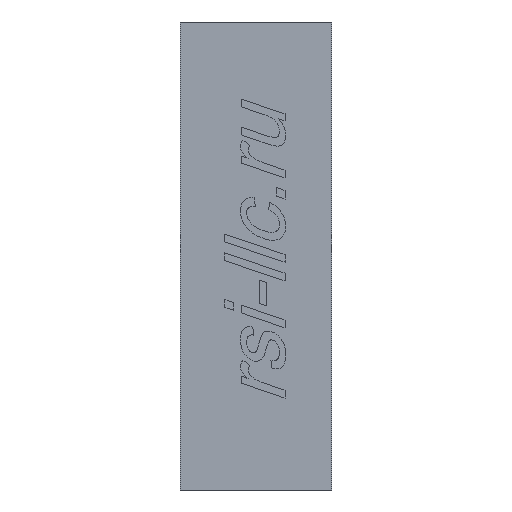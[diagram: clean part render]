
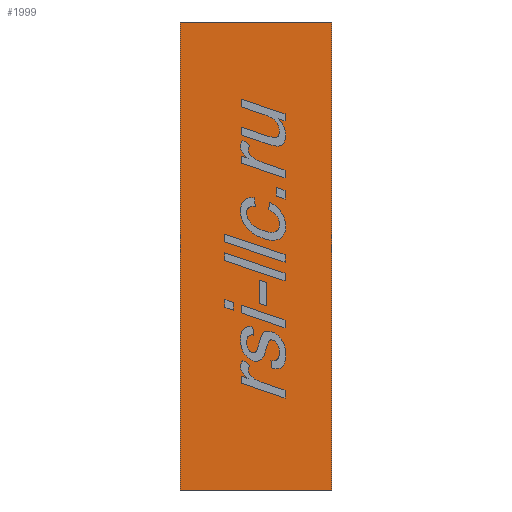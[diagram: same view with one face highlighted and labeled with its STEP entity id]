
A CAD part, front view. The second image highlights one B-rep face of the part: STEP entity #1999.
In plain terms, the highlighted planar face has unit normal (0, -1, 0).
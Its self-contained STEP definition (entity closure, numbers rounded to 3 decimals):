
#139 = VERTEX_POINT ( 'NONE', #193 ) ;
#193 = CARTESIAN_POINT ( 'NONE',  ( -15.5, 0., -48. ) ) ;
#201 = DIRECTION ( 'NONE',  ( 0., 0., -1. ) ) ;
#250 = CARTESIAN_POINT ( 'NONE',  ( 15.5, 0., 48. ) ) ;
#373 = DIRECTION ( 'NONE',  ( 0., 1., 0. ) ) ;
#450 = CARTESIAN_POINT ( 'NONE',  ( -15.5, 0., 48. ) ) ;
#726 = DIRECTION ( 'NONE',  ( -1., 0., 0. ) ) ;
#776 = VECTOR ( 'NONE', #726, 1000. ) ;
#923 = CARTESIAN_POINT ( 'NONE',  ( 15.5, 0., 48. ) ) ;
#1353 = VECTOR ( 'NONE', #4973, 1000. ) ;
#1557 = FACE_OUTER_BOUND ( 'NONE', #6687, .T. ) ;
#1793 = CARTESIAN_POINT ( 'NONE',  ( 15.5, 0., 48. ) ) ;
#1840 = EDGE_CURVE ( 'NONE', #3600, #5277, #3398, .T. ) ;
#1999 = ADVANCED_FACE ( 'NONE', ( #1557 ), #2486, .F. ) ;
#2357 = LINE ( 'NONE', #250, #1353 ) ;
#2486 = PLANE ( 'NONE',  #6644 ) ;
#2714 = EDGE_CURVE ( 'NONE', #3600, #6659, #2357, .T. ) ;
#2829 = LINE ( 'NONE', #4929, #5772 ) ;
#2884 = ORIENTED_EDGE ( 'NONE', *, *, #5405, .T. ) ;
#3352 = LINE ( 'NONE', #5449, #776 ) ;
#3398 = LINE ( 'NONE', #3615, #3936 ) ;
#3600 = VERTEX_POINT ( 'NONE', #1793 ) ;
#3615 = CARTESIAN_POINT ( 'NONE',  ( 15.5, 0., 48. ) ) ;
#3623 = ORIENTED_EDGE ( 'NONE', *, *, #2714, .F. ) ;
#3936 = VECTOR ( 'NONE', #6379, 1000. ) ;
#4007 = EDGE_CURVE ( 'NONE', #6659, #139, #3352, .T. ) ;
#4064 = DIRECTION ( 'NONE',  ( 0., 0., 1. ) ) ;
#4335 = ORIENTED_EDGE ( 'NONE', *, *, #4007, .F. ) ;
#4416 = ORIENTED_EDGE ( 'NONE', *, *, #1840, .T. ) ;
#4929 = CARTESIAN_POINT ( 'NONE',  ( -15.5, 0., 48. ) ) ;
#4973 = DIRECTION ( 'NONE',  ( 0., 0., -1. ) ) ;
#5248 = CARTESIAN_POINT ( 'NONE',  ( 15.5, 0., -48. ) ) ;
#5277 = VERTEX_POINT ( 'NONE', #450 ) ;
#5405 = EDGE_CURVE ( 'NONE', #5277, #139, #2829, .T. ) ;
#5449 = CARTESIAN_POINT ( 'NONE',  ( 15.5, 0., -48. ) ) ;
#5772 = VECTOR ( 'NONE', #201, 1000. ) ;
#6379 = DIRECTION ( 'NONE',  ( -1., 0., 0. ) ) ;
#6644 = AXIS2_PLACEMENT_3D ( 'NONE', #923, #373, #4064 ) ;
#6659 = VERTEX_POINT ( 'NONE', #5248 ) ;
#6687 = EDGE_LOOP ( 'NONE', ( #2884, #4335, #3623, #4416 ) ) ;
